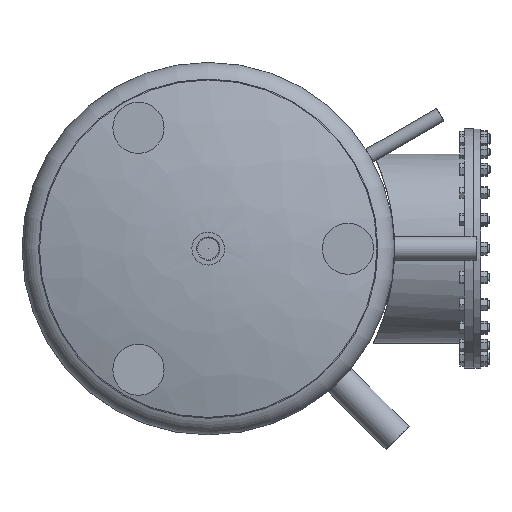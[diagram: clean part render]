
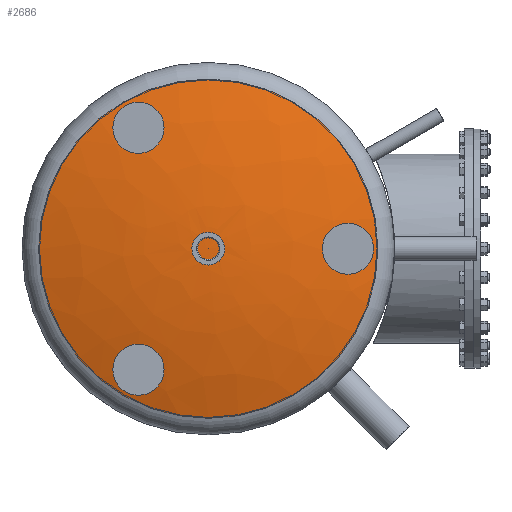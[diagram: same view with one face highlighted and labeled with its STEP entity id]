
A CAD part, front view. The second image highlights one B-rep face of the part: STEP entity #2686.
In plain terms, the highlighted free-form (B-spline) face has degree [2, 2] with [3, 9] control points.
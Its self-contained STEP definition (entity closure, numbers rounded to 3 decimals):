
#309=(
BOUNDED_SURFACE()
B_SPLINE_SURFACE(2,2,((#4787,#4788,#4789,#4790,#4791,#4792,#4793,#4794,
#4795),(#4796,#4797,#4798,#4799,#4800,#4801,#4802,#4803,#4804),(#4805,#4806,
#4807,#4808,#4809,#4810,#4811,#4812,#4813)),.UNSPECIFIED.,.F.,.T.,.F.)
B_SPLINE_SURFACE_WITH_KNOTS((3,3),(3,2,2,2,3),(-1.577,-1.281),
(-3.142,-1.571,0.,1.571,3.142),
 .UNSPECIFIED.)
GEOMETRIC_REPRESENTATION_ITEM()
RATIONAL_B_SPLINE_SURFACE(((1.,0.707,1.,0.707,1.,
0.707,1.,0.707,1.),(0.989,0.699,
0.989,0.699,0.989,0.699,
0.989,0.699,0.989),(1.,0.707,
1.,0.707,1.,0.707,1.,0.707,1.)))
REPRESENTATION_ITEM('')
SURFACE()
);
#567=FACE_OUTER_BOUND('',#712,.T.);
#712=EDGE_LOOP('',(#2056,#2057,#2058));
#1252=CIRCLE('',#3147,364.285);
#1253=CIRCLE('',#3148,1250.);
#1442=VERTEX_POINT('',#4814);
#1443=VERTEX_POINT('',#4816);
#1675=EDGE_CURVE('',#1442,#1442,#1252,.T.);
#1676=EDGE_CURVE('',#1442,#1443,#1253,.T.);
#2056=ORIENTED_EDGE('',*,*,#1675,.F.);
#2057=ORIENTED_EDGE('',*,*,#1676,.T.);
#2058=ORIENTED_EDGE('',*,*,#1676,.F.);
#2686=ADVANCED_FACE('',(#567),#309,.F.);
#3147=AXIS2_PLACEMENT_3D('',#4815,#3639,#3640);
#3148=AXIS2_PLACEMENT_3D('',#4817,#3641,#3642);
#3639=DIRECTION('center_axis',(0.,-1.,0.));
#3640=DIRECTION('ref_axis',(1.,0.,0.));
#3641=DIRECTION('center_axis',(-1.,0.,0.));
#3642=DIRECTION('ref_axis',(0.,0.,
1.));
#4787=CARTESIAN_POINT('Ctrl Pts',(0.,0.,0.));
#4788=CARTESIAN_POINT('Ctrl Pts',(0.,0.,
0.));
#4789=CARTESIAN_POINT('Ctrl Pts',(0.,0.,
0.));
#4790=CARTESIAN_POINT('Ctrl Pts',(0.,0.,
0.));
#4791=CARTESIAN_POINT('Ctrl Pts',(0.,0.,0.));
#4792=CARTESIAN_POINT('Ctrl Pts',(0.,0.,
0.));
#4793=CARTESIAN_POINT('Ctrl Pts',(0.,0.,
0.));
#4794=CARTESIAN_POINT('Ctrl Pts',(0.,0.,
0.));
#4795=CARTESIAN_POINT('Ctrl Pts',(0.,0.,0.));
#4796=CARTESIAN_POINT('Ctrl Pts',(0.,1.064,186.018));
#4797=CARTESIAN_POINT('Ctrl Pts',(-186.018,1.064,186.018));
#4798=CARTESIAN_POINT('Ctrl Pts',(-186.018,1.064,0.));
#4799=CARTESIAN_POINT('Ctrl Pts',(-186.018,1.064,-186.018));
#4800=CARTESIAN_POINT('Ctrl Pts',(0.,1.064,-186.018));
#4801=CARTESIAN_POINT('Ctrl Pts',(186.018,1.064,-186.018));
#4802=CARTESIAN_POINT('Ctrl Pts',(186.018,1.064,0.));
#4803=CARTESIAN_POINT('Ctrl Pts',(186.018,1.064,186.018));
#4804=CARTESIAN_POINT('Ctrl Pts',(0.,1.064,186.018));
#4805=CARTESIAN_POINT('Ctrl Pts',(0.,-52.084,364.285));
#4806=CARTESIAN_POINT('Ctrl Pts',(-364.285,-52.084,364.285));
#4807=CARTESIAN_POINT('Ctrl Pts',(-364.285,-52.084,0.));
#4808=CARTESIAN_POINT('Ctrl Pts',(-364.285,-52.084,-364.285));
#4809=CARTESIAN_POINT('Ctrl Pts',(0.,-52.084,-364.285));
#4810=CARTESIAN_POINT('Ctrl Pts',(364.285,-52.084,-364.285));
#4811=CARTESIAN_POINT('Ctrl Pts',(364.285,-52.084,0.));
#4812=CARTESIAN_POINT('Ctrl Pts',(364.285,-52.084,364.285));
#4813=CARTESIAN_POINT('Ctrl Pts',(0.,-52.084,364.285));
#4814=CARTESIAN_POINT('',(0.,-52.084,364.285));
#4815=CARTESIAN_POINT('Origin',(0.,-52.084,0.));
#4816=CARTESIAN_POINT('',(0.,0.,0.));
#4817=CARTESIAN_POINT('Origin',(0.,-1249.98,
7.149));
